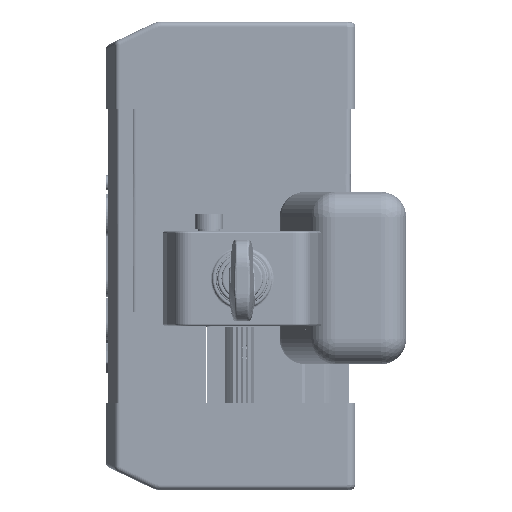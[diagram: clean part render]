
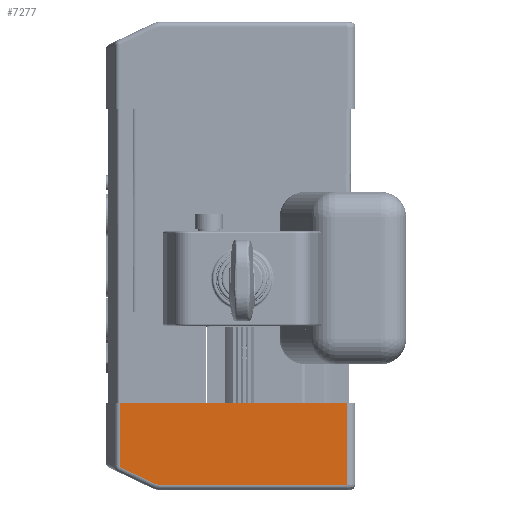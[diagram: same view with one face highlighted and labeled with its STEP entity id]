
A CAD part, front view. The second image highlights one B-rep face of the part: STEP entity #7277.
In plain terms, the highlighted planar face has unit normal (0, -1, 0).
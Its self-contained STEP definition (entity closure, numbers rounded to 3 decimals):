
#7277=ADVANCED_FACE('',(#13023),#10917,.T.);
#10917=PLANE('',#74394);
#13023=FACE_OUTER_BOUND('',#17177,.T.);
#17177=EDGE_LOOP('',(#32762,#32763,#32764,#32765,#32766,#32767));
#21603=CIRCLE('',#74393,15.);
#32762=ORIENTED_EDGE('',*,*,#55568,.T.);
#32763=ORIENTED_EDGE('',*,*,#55808,.T.);
#32764=ORIENTED_EDGE('',*,*,#55809,.T.);
#32765=ORIENTED_EDGE('',*,*,#55810,.T.);
#32766=ORIENTED_EDGE('',*,*,#55811,.T.);
#32767=ORIENTED_EDGE('',*,*,#55812,.T.);
#48050=VERTEX_POINT('',#143580);
#48051=VERTEX_POINT('',#143582);
#48205=VERTEX_POINT('',#144157);
#48207=VERTEX_POINT('',#144166);
#48208=VERTEX_POINT('',#144168);
#48209=VERTEX_POINT('',#144170);
#55568=EDGE_CURVE('',#48051,#48050,#64311,.T.);
#55808=EDGE_CURVE('',#48050,#48205,#64453,.T.);
#55809=EDGE_CURVE('',#48205,#48207,#64454,.T.);
#55810=EDGE_CURVE('',#48207,#48208,#21603,.T.);
#55811=EDGE_CURVE('',#48208,#48209,#64455,.T.);
#55812=EDGE_CURVE('',#48209,#48051,#64456,.T.);
#64311=LINE('',#143581,#69246);
#64453=LINE('',#144163,#69388);
#64454=LINE('',#144165,#69389);
#64455=LINE('',#144169,#69390);
#64456=LINE('',#144171,#69391);
#69246=VECTOR('',#86032,1.);
#69388=VECTOR('',#86534,1.);
#69389=VECTOR('',#86537,1.);
#69390=VECTOR('',#86540,1.);
#69391=VECTOR('',#86541,1.);
#74393=AXIS2_PLACEMENT_3D('',#144167,#86538,#86539);
#74394=AXIS2_PLACEMENT_3D('',#144172,#86542,#86543);
#86032=DIRECTION('',(-1.,0.,0.));
#86534=DIRECTION('',(0.,0.,-1.));
#86537=DIRECTION('',(0.902,0.,-0.432));
#86538=DIRECTION('',(0.,-1.,0.));
#86539=DIRECTION('',(-1.,0.,0.));
#86540=DIRECTION('',(1.,0.,0.));
#86541=DIRECTION('',(0.,0.,1.));
#86542=DIRECTION('',(0.,-1.,0.));
#86543=DIRECTION('',(1.,0.,0.));
#143580=CARTESIAN_POINT('',(840.283,223.317,-72.6));
#143581=CARTESIAN_POINT('',(877.549,223.317,-72.6));
#143582=CARTESIAN_POINT('',(1059.004,223.317,-72.6));
#144157=CARTESIAN_POINT('',(840.283,223.317,-134.648));
#144163=CARTESIAN_POINT('',(840.283,223.317,-133.6));
#144165=CARTESIAN_POINT('',(873.504,223.317,-150.551));
#144166=CARTESIAN_POINT('',(873.25,223.317,-150.43));
#144167=CARTESIAN_POINT('',(879.727,223.317,-136.9));
#144168=CARTESIAN_POINT('',(879.727,223.317,-151.9));
#144169=CARTESIAN_POINT('',(881.227,223.317,-151.9));
#144170=CARTESIAN_POINT('',(1059.004,223.317,-151.9));
#144171=CARTESIAN_POINT('',(1059.004,223.317,-101.6));
#144172=CARTESIAN_POINT('',(877.549,223.317,-142.1));
